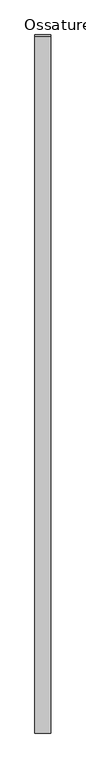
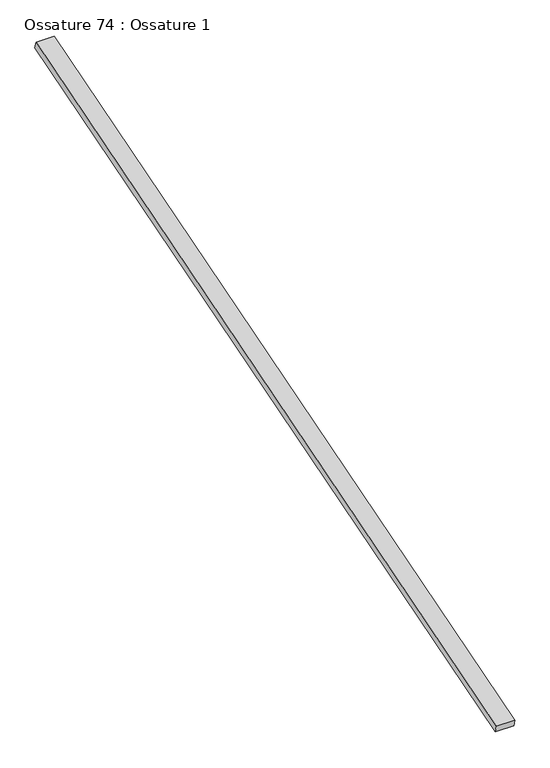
"""IFC4 building model written with IfcOpenShell, lengths in millimetres: beam geometry, Ossature 74 : Ossature 1."""

from ifc_helpers import new_model, si_unit, frame, origin, place, context, project, spatial, polyline, outline, extrude, source, transform, mapped, element, save


def ossature_74_ossature_1_50694d11(model_context):
    return source(origin(), model_context, "Body", "SweptSolid", [
        extrude(outline(polyline([(0.0, 0.0), (0.0, -4543.0299679), (-100.0, -4543.0299679), (-100.0, 0.0), (0.0, 0.0)])), frame((17912.8466393, -833.3913565, 8153.6336115), z_axis=(0.0, -0.28734788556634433, 0.9578262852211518), x_axis=(-1.0, 0.0, 0.0)), (0.0, 0.0, 1.0), 40.0),
    ])


if __name__ == "__main__":
    model = new_model("IFC4")
    model_context = context("Model", 3, world=origin())
    ifc_project = project(units=[si_unit("LENGTHUNIT", "METRE", prefix="MILLI")], contexts=[model_context])
    site = spatial("IfcSite", under=ifc_project)
    building = spatial("IfcBuilding", under=site)
    placement = place(None, origin())
    ossature_74_ossature_1_shape = ossature_74_ossature_1_50694d11(model_context)
    element("IfcBeam", 1, ObjectType="Ossature 74 : Ossature 1", at=placement, inside=building, context=model_context, shape_type="MappedRepresentation", body=[
        mapped(ossature_74_ossature_1_shape, transform((0.0, 0.0, 0.0), x_axis=(1.0, 0.0, 0.0), y_axis=(0.0, 1.0, 0.0), z_axis=(0.0, 0.0, 1.0))),
    ])
    save(model, "model.ifc")
